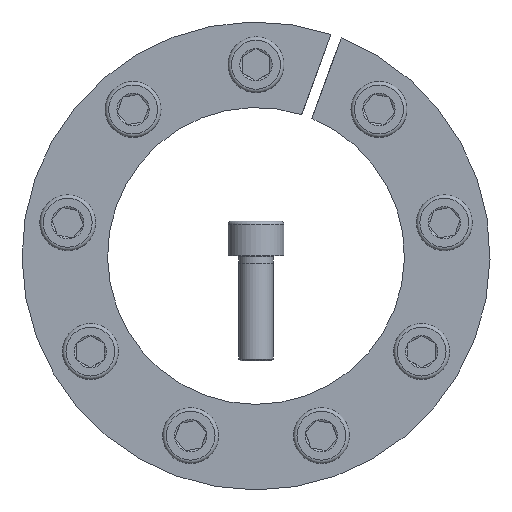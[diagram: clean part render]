
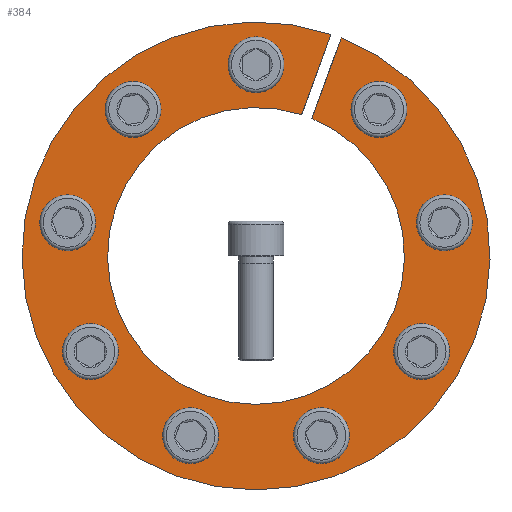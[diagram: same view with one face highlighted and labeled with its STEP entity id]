
A CAD part, front view. The second image highlights one B-rep face of the part: STEP entity #384.
In plain terms, the highlighted planar face has unit normal (0, -1, 0).
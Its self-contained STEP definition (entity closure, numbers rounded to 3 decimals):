
#384 = ADVANCED_FACE( '', ( #596, #597, #598, #599, #600, #601, #602, #603, #604, #605 ), #606, .F. );
#596 = FACE_BOUND( '', #770, .T. );
#597 = FACE_BOUND( '', #771, .T. );
#598 = FACE_BOUND( '', #772, .T. );
#599 = FACE_BOUND( '', #773, .T. );
#600 = FACE_BOUND( '', #774, .T. );
#601 = FACE_BOUND( '', #775, .T. );
#602 = FACE_BOUND( '', #776, .T. );
#603 = FACE_BOUND( '', #777, .T. );
#604 = FACE_BOUND( '', #778, .T. );
#605 = FACE_OUTER_BOUND( '', #779, .T. );
#606 = PLANE( '', #780 );
#770 = EDGE_LOOP( '', ( #983 ) );
#771 = EDGE_LOOP( '', ( #984 ) );
#772 = EDGE_LOOP( '', ( #985 ) );
#773 = EDGE_LOOP( '', ( #986 ) );
#774 = EDGE_LOOP( '', ( #987 ) );
#775 = EDGE_LOOP( '', ( #988 ) );
#776 = EDGE_LOOP( '', ( #989 ) );
#777 = EDGE_LOOP( '', ( #990 ) );
#778 = EDGE_LOOP( '', ( #991 ) );
#779 = EDGE_LOOP( '', ( #992, #993, #994, #995 ) );
#780 = AXIS2_PLACEMENT_3D( '', #996, #997, #998 );
#983 = ORIENTED_EDGE( '', *, *, #1339, .T. );
#984 = ORIENTED_EDGE( '', *, *, #1340, .T. );
#985 = ORIENTED_EDGE( '', *, *, #1341, .T. );
#986 = ORIENTED_EDGE( '', *, *, #1342, .T. );
#987 = ORIENTED_EDGE( '', *, *, #1343, .T. );
#988 = ORIENTED_EDGE( '', *, *, #1344, .T. );
#989 = ORIENTED_EDGE( '', *, *, #1345, .T. );
#990 = ORIENTED_EDGE( '', *, *, #1346, .T. );
#991 = ORIENTED_EDGE( '', *, *, #1347, .T. );
#992 = ORIENTED_EDGE( '', *, *, #1348, .T. );
#993 = ORIENTED_EDGE( '', *, *, #1349, .T. );
#994 = ORIENTED_EDGE( '', *, *, #1331, .T. );
#995 = ORIENTED_EDGE( '', *, *, #1350, .F. );
#996 = CARTESIAN_POINT( '', ( 0., 0., 67. ) );
#997 = DIRECTION( '', ( 0., 1., 0. ) );
#998 = DIRECTION( '', ( 0., 0., 1. ) );
#1331 = EDGE_CURVE( '', #1475, #1473, #1476, .T. );
#1339 = EDGE_CURVE( '', #1489, #1489, #1490, .T. );
#1340 = EDGE_CURVE( '', #1491, #1491, #1492, .T. );
#1341 = EDGE_CURVE( '', #1493, #1493, #1494, .T. );
#1342 = EDGE_CURVE( '', #1495, #1495, #1496, .T. );
#1343 = EDGE_CURVE( '', #1497, #1497, #1498, .T. );
#1344 = EDGE_CURVE( '', #1499, #1499, #1500, .T. );
#1345 = EDGE_CURVE( '', #1501, #1501, #1502, .T. );
#1346 = EDGE_CURVE( '', #1503, #1503, #1504, .T. );
#1347 = EDGE_CURVE( '', #1505, #1505, #1506, .T. );
#1348 = EDGE_CURVE( '', #1507, #1508, #1509, .T. );
#1349 = EDGE_CURVE( '', #1508, #1475, #1510, .T. );
#1350 = EDGE_CURVE( '', #1507, #1473, #1511, .T. );
#1473 = VERTEX_POINT( '', #1597 );
#1475 = VERTEX_POINT( '', #1600 );
#1476 = LINE( '', #1601, #1602 );
#1489 = VERTEX_POINT( '', #1626 );
#1490 = CIRCLE( '', #1627, 5. );
#1491 = VERTEX_POINT( '', #1628 );
#1492 = CIRCLE( '', #1629, 5. );
#1493 = VERTEX_POINT( '', #1630 );
#1494 = CIRCLE( '', #1631, 5. );
#1495 = VERTEX_POINT( '', #1632 );
#1496 = CIRCLE( '', #1633, 5. );
#1497 = VERTEX_POINT( '', #1634 );
#1498 = CIRCLE( '', #1635, 5. );
#1499 = VERTEX_POINT( '', #1636 );
#1500 = CIRCLE( '', #1637, 5. );
#1501 = VERTEX_POINT( '', #1638 );
#1502 = CIRCLE( '', #1639, 5. );
#1503 = VERTEX_POINT( '', #1640 );
#1504 = CIRCLE( '', #1641, 5. );
#1505 = VERTEX_POINT( '', #1642 );
#1506 = CIRCLE( '', #1643, 5. );
#1507 = VERTEX_POINT( '', #1644 );
#1508 = VERTEX_POINT( '', #1645 );
#1509 = LINE( '', #1646, #1647 );
#1510 = CIRCLE( '', #1648, 67. );
#1511 = CIRCLE( '', #1649, 42.5 );
#1597 = CARTESIAN_POINT( '', ( 15.994, 0., 39.376 ) );
#1600 = CARTESIAN_POINT( '', ( 24.377, 0., 62.408 ) );
#1601 = CARTESIAN_POINT( '', ( 24.384, 0., 62.425 ) );
#1602 = VECTOR( '', #1754, 1000. );
#1626 = CARTESIAN_POINT( '', ( -31.362, 0., 45.155 ) );
#1627 = AXIS2_PLACEMENT_3D( '', #1760, #1761, #1762 );
#1628 = CARTESIAN_POINT( '', ( -49.915, 0., -23.045 ) );
#1629 = AXIS2_PLACEMENT_3D( '', #1763, #1764, #1765 );
#1630 = CARTESIAN_POINT( '', ( 14.027, 0., -53.158 ) );
#1631 = AXIS2_PLACEMENT_3D( '', #1766, #1767, #1768 );
#1632 = CARTESIAN_POINT( '', ( 54.786, 0., 4.583 ) );
#1633 = AXIS2_PLACEMENT_3D( '', #1769, #1770, #1771 );
#1634 = CARTESIAN_POINT( '', ( 5., 0., 54.75 ) );
#1635 = AXIS2_PLACEMENT_3D( '', #1772, #1773, #1774 );
#1636 = CARTESIAN_POINT( '', ( 39.023, 0., 38.727 ) );
#1637 = AXIS2_PLACEMENT_3D( '', #1775, #1776, #1777 );
#1638 = CARTESIAN_POINT( '', ( 44.915, 0., -31.705 ) );
#1639 = AXIS2_PLACEMENT_3D( '', #1778, #1779, #1780 );
#1640 = CARTESIAN_POINT( '', ( -23.424, 0., -49.738 ) );
#1641 = AXIS2_PLACEMENT_3D( '', #1781, #1782, #1783 );
#1642 = CARTESIAN_POINT( '', ( -53.05, 0., 14.431 ) );
#1643 = AXIS2_PLACEMENT_3D( '', #1784, #1785, #1786 );
#1644 = CARTESIAN_POINT( '', ( 13.058, 0., 40.444 ) );
#1645 = CARTESIAN_POINT( '', ( 21.441, 0., 63.477 ) );
#1646 = CARTESIAN_POINT( '', ( 13.058, 0., 40.444 ) );
#1647 = VECTOR( '', #1787, 1000. );
#1648 = AXIS2_PLACEMENT_3D( '', #1788, #1789, #1790 );
#1649 = AXIS2_PLACEMENT_3D( '', #1791, #1792, #1793 );
#1754 = DIRECTION( '', ( -0.342, 0., -0.94 ) );
#1760 = CARTESIAN_POINT( '', ( -35.193, 0., 41.941 ) );
#1761 = DIRECTION( '', ( 0., 1., 0. ) );
#1762 = DIRECTION( '', ( 0.766, 0., 0.643 ) );
#1763 = CARTESIAN_POINT( '', ( -47.415, 0., -27.375 ) );
#1764 = DIRECTION( '', ( 0., 1., 0. ) );
#1765 = DIRECTION( '', ( -0.5, 0., 0.866 ) );
#1766 = CARTESIAN_POINT( '', ( 18.726, 0., -51.448 ) );
#1767 = DIRECTION( '', ( 0., 1., 0. ) );
#1768 = DIRECTION( '', ( -0.94, 0., -0.342 ) );
#1769 = CARTESIAN_POINT( '', ( 53.918, 0., 9.507 ) );
#1770 = DIRECTION( '', ( 0., 1., 0. ) );
#1771 = DIRECTION( '', ( 0.174, 0., -0.985 ) );
#1772 = CARTESIAN_POINT( '', ( 0., 0., 54.75 ) );
#1773 = DIRECTION( '', ( 0., 1., 0. ) );
#1774 = DIRECTION( '', ( 1., 0., 0. ) );
#1775 = CARTESIAN_POINT( '', ( 35.193, 0., 41.941 ) );
#1776 = DIRECTION( '', ( 0., 1., 0. ) );
#1777 = DIRECTION( '', ( 0.766, 0., -0.643 ) );
#1778 = CARTESIAN_POINT( '', ( 47.415, 0., -27.375 ) );
#1779 = DIRECTION( '', ( 0., 1., 0. ) );
#1780 = DIRECTION( '', ( -0.5, 0., -0.866 ) );
#1781 = CARTESIAN_POINT( '', ( -18.726, 0., -51.448 ) );
#1782 = DIRECTION( '', ( 0., 1., 0. ) );
#1783 = DIRECTION( '', ( -0.94, 0., 0.342 ) );
#1784 = CARTESIAN_POINT( '', ( -53.918, 0., 9.507 ) );
#1785 = DIRECTION( '', ( 0., 1., 0. ) );
#1786 = DIRECTION( '', ( 0.174, 0., 0.985 ) );
#1787 = DIRECTION( '', ( 0.342, 0., 0.94 ) );
#1788 = CARTESIAN_POINT( '', ( 0., 0., 0. ) );
#1789 = DIRECTION( '', ( 0., -1., 0. ) );
#1790 = DIRECTION( '', ( 0., 0., -1. ) );
#1791 = CARTESIAN_POINT( '', ( 0., 0., 0. ) );
#1792 = DIRECTION( '', ( 0., -1., 0. ) );
#1793 = DIRECTION( '', ( 0., 0., -1. ) );
